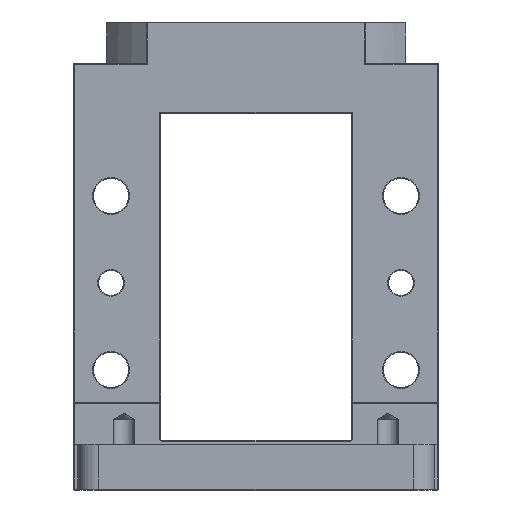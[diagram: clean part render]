
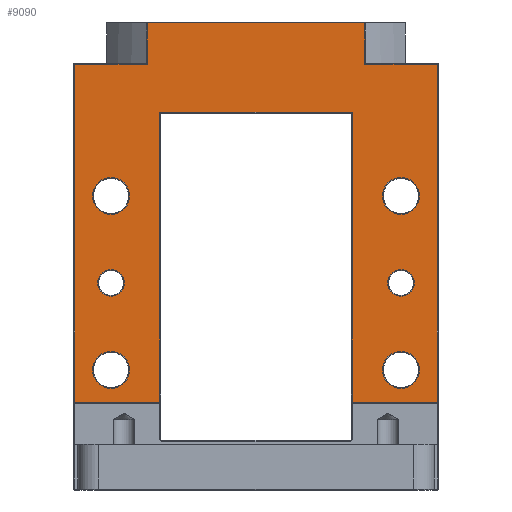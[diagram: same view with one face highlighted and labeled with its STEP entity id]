
A CAD part, front view. The second image highlights one B-rep face of the part: STEP entity #9090.
In plain terms, the highlighted planar face has unit normal (0, -1, 0).
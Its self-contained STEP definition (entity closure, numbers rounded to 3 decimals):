
#338=DIRECTION('',(1.,0.,0.));
#339=VECTOR('',#338,52.513);
#340=CARTESIAN_POINT('',(-26.256,-34.,106.8));
#341=LINE('',#340,#339);
#356=DIRECTION('',(0.,0.,-1.));
#357=VECTOR('',#356,10.);
#358=CARTESIAN_POINT('',(26.256,-34.,106.8));
#359=LINE('',#358,#357);
#368=DIRECTION('',(1.,0.,0.));
#369=VECTOR('',#368,17.544);
#370=CARTESIAN_POINT('',(26.256,-34.,96.8));
#371=LINE('',#370,#369);
#401=DIRECTION('',(0.,0.,-1.));
#402=VECTOR('',#401,81.6);
#403=CARTESIAN_POINT('',(43.8,-34.,96.8));
#404=LINE('',#403,#402);
#436=DIRECTION('',(-1.,0.,0.));
#437=VECTOR('',#436,20.6);
#438=CARTESIAN_POINT('',(43.8,-34.,15.2));
#439=LINE('',#438,#437);
#2398=DIRECTION('',(0.,0.,1.));
#2399=VECTOR('',#2398,10.);
#2400=CARTESIAN_POINT('',(-26.256,-34.,96.8));
#2401=LINE('',#2400,#2399);
#2420=DIRECTION('',(1.,0.,0.));
#2421=VECTOR('',#2420,17.544);
#2422=CARTESIAN_POINT('',(-43.8,-34.,96.8));
#2423=LINE('',#2422,#2421);
#2428=CARTESIAN_POINT('',(-35.,-34.,65.));
#2429=DIRECTION('',(0.,1.,0.));
#2430=DIRECTION('',(0.,0.,1.));
#2431=AXIS2_PLACEMENT_3D('',#2428,#2429,#2430);
#2433=CARTESIAN_POINT('',(-35.,-34.,65.));
#2434=DIRECTION('',(0.,1.,0.));
#2435=DIRECTION('',(0.,0.,-1.));
#2436=AXIS2_PLACEMENT_3D('',#2433,#2434,#2435);
#2438=CARTESIAN_POINT('',(35.,-34.,65.));
#2439=DIRECTION('',(0.,1.,0.));
#2440=DIRECTION('',(0.,0.,1.));
#2441=AXIS2_PLACEMENT_3D('',#2438,#2439,#2440);
#2443=CARTESIAN_POINT('',(35.,-34.,65.));
#2444=DIRECTION('',(0.,1.,0.));
#2445=DIRECTION('',(0.,0.,-1.));
#2446=AXIS2_PLACEMENT_3D('',#2443,#2444,#2445);
#2448=CARTESIAN_POINT('',(35.,-34.,23.));
#2449=DIRECTION('',(0.,1.,0.));
#2450=DIRECTION('',(0.,0.,1.));
#2451=AXIS2_PLACEMENT_3D('',#2448,#2449,#2450);
#2453=CARTESIAN_POINT('',(35.,-34.,23.));
#2454=DIRECTION('',(0.,1.,0.));
#2455=DIRECTION('',(0.,0.,-1.));
#2456=AXIS2_PLACEMENT_3D('',#2453,#2454,#2455);
#2458=CARTESIAN_POINT('',(-35.,-34.,23.));
#2459=DIRECTION('',(0.,1.,0.));
#2460=DIRECTION('',(0.,0.,1.));
#2461=AXIS2_PLACEMENT_3D('',#2458,#2459,#2460);
#2463=CARTESIAN_POINT('',(-35.,-34.,23.));
#2464=DIRECTION('',(0.,1.,0.));
#2465=DIRECTION('',(0.,0.,-1.));
#2466=AXIS2_PLACEMENT_3D('',#2463,#2464,#2465);
#2468=CARTESIAN_POINT('',(35.,-34.,44.));
#2469=DIRECTION('',(0.,1.,0.));
#2470=DIRECTION('',(0.,0.,1.));
#2471=AXIS2_PLACEMENT_3D('',#2468,#2469,#2470);
#2473=CARTESIAN_POINT('',(35.,-34.,44.));
#2474=DIRECTION('',(0.,1.,0.));
#2475=DIRECTION('',(0.,0.,-1.));
#2476=AXIS2_PLACEMENT_3D('',#2473,#2474,#2475);
#2478=CARTESIAN_POINT('',(-35.,-34.,44.));
#2479=DIRECTION('',(0.,1.,0.));
#2480=DIRECTION('',(0.,0.,1.));
#2481=AXIS2_PLACEMENT_3D('',#2478,#2479,#2480);
#2483=CARTESIAN_POINT('',(-35.,-34.,44.));
#2484=DIRECTION('',(0.,1.,0.));
#2485=DIRECTION('',(0.,0.,-1.));
#2486=AXIS2_PLACEMENT_3D('',#2483,#2484,#2485);
#2956=DIRECTION('',(0.,0.,1.));
#2957=VECTOR('',#2956,70.);
#2958=CARTESIAN_POINT('',(23.2,-34.,15.2));
#2959=LINE('',#2958,#2957);
#2972=DIRECTION('',(-1.,0.,0.));
#2973=VECTOR('',#2972,46.4);
#2974=CARTESIAN_POINT('',(23.2,-34.,85.2));
#2975=LINE('',#2974,#2973);
#2988=DIRECTION('',(0.,0.,-1.));
#2989=VECTOR('',#2988,70.);
#2990=CARTESIAN_POINT('',(-23.2,-34.,85.2));
#2991=LINE('',#2990,#2989);
#2996=DIRECTION('',(-1.,0.,0.));
#2997=VECTOR('',#2996,20.6);
#2998=CARTESIAN_POINT('',(-23.2,-34.,15.2));
#2999=LINE('',#2998,#2997);
#3544=DIRECTION('',(0.,0.,1.));
#3545=VECTOR('',#3544,81.6);
#3546=CARTESIAN_POINT('',(-43.8,-34.,15.2));
#3547=LINE('',#3546,#3545);
#4966=CARTESIAN_POINT('',(43.8,-34.,15.2));
#4967=CARTESIAN_POINT('',(23.2,-34.,15.2));
#4968=VERTEX_POINT('',#4966);
#4969=VERTEX_POINT('',#4967);
#4970=CARTESIAN_POINT('',(43.8,-34.,96.8));
#4971=VERTEX_POINT('',#4970);
#4972=CARTESIAN_POINT('',(26.256,-34.,96.8));
#4973=VERTEX_POINT('',#4972);
#4974=CARTESIAN_POINT('',(26.256,-34.,106.8));
#4975=VERTEX_POINT('',#4974);
#4976=CARTESIAN_POINT('',(-26.256,-34.,106.8));
#4977=VERTEX_POINT('',#4976);
#4978=CARTESIAN_POINT('',(-26.256,-34.,96.8));
#4979=VERTEX_POINT('',#4978);
#4980=CARTESIAN_POINT('',(-43.8,-34.,96.8));
#4981=VERTEX_POINT('',#4980);
#4982=CARTESIAN_POINT('',(-43.8,-34.,15.2));
#4983=VERTEX_POINT('',#4982);
#4984=CARTESIAN_POINT('',(-23.2,-34.,15.2));
#4985=VERTEX_POINT('',#4984);
#4986=CARTESIAN_POINT('',(-23.2,-34.,85.2));
#4987=VERTEX_POINT('',#4986);
#4988=CARTESIAN_POINT('',(23.2,-34.,85.2));
#4989=VERTEX_POINT('',#4988);
#5736=CARTESIAN_POINT('',(-35.,-34.,47.2));
#5737=VERTEX_POINT('',#5736);
#5738=CARTESIAN_POINT('',(-35.,-34.,40.8));
#5739=VERTEX_POINT('',#5738);
#5748=CARTESIAN_POINT('',(35.,-34.,47.2));
#5749=VERTEX_POINT('',#5748);
#5750=CARTESIAN_POINT('',(35.,-34.,40.8));
#5751=VERTEX_POINT('',#5750);
#5760=CARTESIAN_POINT('',(-35.,-34.,27.45));
#5761=VERTEX_POINT('',#5760);
#5762=CARTESIAN_POINT('',(-35.,-34.,18.55));
#5763=VERTEX_POINT('',#5762);
#5772=CARTESIAN_POINT('',(35.,-34.,27.45));
#5773=VERTEX_POINT('',#5772);
#5774=CARTESIAN_POINT('',(35.,-34.,18.55));
#5775=VERTEX_POINT('',#5774);
#5784=CARTESIAN_POINT('',(35.,-34.,69.45));
#5785=VERTEX_POINT('',#5784);
#5786=CARTESIAN_POINT('',(35.,-34.,60.55));
#5787=VERTEX_POINT('',#5786);
#5796=CARTESIAN_POINT('',(-35.,-34.,69.45));
#5797=VERTEX_POINT('',#5796);
#5798=CARTESIAN_POINT('',(-35.,-34.,60.55));
#5799=VERTEX_POINT('',#5798);
#9030=CARTESIAN_POINT('',(43.,-34.,97.));
#9031=DIRECTION('',(0.,1.,0.));
#9032=DIRECTION('',(0.,0.,-1.));
#9033=AXIS2_PLACEMENT_3D('',#9030,#9031,#9032);
#9034=PLANE('',#9033);
#9035=ORIENTED_EDGE('',*,*,#6564,.T.);
#9037=ORIENTED_EDGE('',*,*,#9036,.T.);
#9039=ORIENTED_EDGE('',*,*,#9038,.T.);
#9041=ORIENTED_EDGE('',*,*,#9040,.T.);
#9043=ORIENTED_EDGE('',*,*,#9042,.T.);
#9045=ORIENTED_EDGE('',*,*,#9044,.T.);
#9046=ORIENTED_EDGE('',*,*,#9022,.T.);
#9047=ORIENTED_EDGE('',*,*,#8993,.T.);
#9048=ORIENTED_EDGE('',*,*,#6464,.T.);
#9049=ORIENTED_EDGE('',*,*,#6491,.T.);
#9050=ORIENTED_EDGE('',*,*,#6506,.T.);
#9051=ORIENTED_EDGE('',*,*,#6533,.T.);
#9052=EDGE_LOOP('',(#9035,#9037,#9039,#9041,#9043,#9045,#9046,#9047,#9048,#9049,
#9050,#9051));
#9053=FACE_OUTER_BOUND('',#9052,.F.);
#9055=ORIENTED_EDGE('',*,*,#9054,.F.);
#9057=ORIENTED_EDGE('',*,*,#9056,.F.);
#9058=EDGE_LOOP('',(#9055,#9057));
#9059=FACE_BOUND('',#9058,.F.);
#9061=ORIENTED_EDGE('',*,*,#9060,.F.);
#9063=ORIENTED_EDGE('',*,*,#9062,.F.);
#9064=EDGE_LOOP('',(#9061,#9063));
#9065=FACE_BOUND('',#9064,.F.);
#9067=ORIENTED_EDGE('',*,*,#9066,.F.);
#9069=ORIENTED_EDGE('',*,*,#9068,.F.);
#9070=EDGE_LOOP('',(#9067,#9069));
#9071=FACE_BOUND('',#9070,.F.);
#9073=ORIENTED_EDGE('',*,*,#9072,.F.);
#9075=ORIENTED_EDGE('',*,*,#9074,.F.);
#9076=EDGE_LOOP('',(#9073,#9075));
#9077=FACE_BOUND('',#9076,.F.);
#9079=ORIENTED_EDGE('',*,*,#9078,.F.);
#9081=ORIENTED_EDGE('',*,*,#9080,.F.);
#9082=EDGE_LOOP('',(#9079,#9081));
#9083=FACE_BOUND('',#9082,.F.);
#9085=ORIENTED_EDGE('',*,*,#9084,.F.);
#9087=ORIENTED_EDGE('',*,*,#9086,.F.);
#9088=EDGE_LOOP('',(#9085,#9087));
#9089=FACE_BOUND('',#9088,.F.);
#2432=CIRCLE('',#2431,4.45);
#2437=CIRCLE('',#2436,4.45);
#2442=CIRCLE('',#2441,4.45);
#2447=CIRCLE('',#2446,4.45);
#2452=CIRCLE('',#2451,4.45);
#2457=CIRCLE('',#2456,4.45);
#2462=CIRCLE('',#2461,4.45);
#2467=CIRCLE('',#2466,4.45);
#2472=CIRCLE('',#2471,3.2);
#2477=CIRCLE('',#2476,3.2);
#2482=CIRCLE('',#2481,3.2);
#2487=CIRCLE('',#2486,3.2);
#6464=EDGE_CURVE('',#4977,#4975,#341,.T.);
#6491=EDGE_CURVE('',#4975,#4973,#359,.T.);
#6506=EDGE_CURVE('',#4973,#4971,#371,.T.);
#6533=EDGE_CURVE('',#4971,#4968,#404,.T.);
#6564=EDGE_CURVE('',#4968,#4969,#439,.T.);
#8993=EDGE_CURVE('',#4979,#4977,#2401,.T.);
#9022=EDGE_CURVE('',#4981,#4979,#2423,.T.);
#9036=EDGE_CURVE('',#4969,#4989,#2959,.T.);
#9038=EDGE_CURVE('',#4989,#4987,#2975,.T.);
#9040=EDGE_CURVE('',#4987,#4985,#2991,.T.);
#9042=EDGE_CURVE('',#4985,#4983,#2999,.T.);
#9044=EDGE_CURVE('',#4983,#4981,#3547,.T.);
#9054=EDGE_CURVE('',#5785,#5787,#2442,.T.);
#9056=EDGE_CURVE('',#5787,#5785,#2447,.T.);
#9060=EDGE_CURVE('',#5773,#5775,#2452,.T.);
#9062=EDGE_CURVE('',#5775,#5773,#2457,.T.);
#9066=EDGE_CURVE('',#5761,#5763,#2462,.T.);
#9068=EDGE_CURVE('',#5763,#5761,#2467,.T.);
#9072=EDGE_CURVE('',#5749,#5751,#2472,.T.);
#9074=EDGE_CURVE('',#5751,#5749,#2477,.T.);
#9078=EDGE_CURVE('',#5737,#5739,#2482,.T.);
#9080=EDGE_CURVE('',#5739,#5737,#2487,.T.);
#9084=EDGE_CURVE('',#5797,#5799,#2432,.T.);
#9086=EDGE_CURVE('',#5799,#5797,#2437,.T.);
#9090=ADVANCED_FACE('',(#9053,#9059,#9065,#9071,#9077,#9083,#9089),#9034,.F.);
